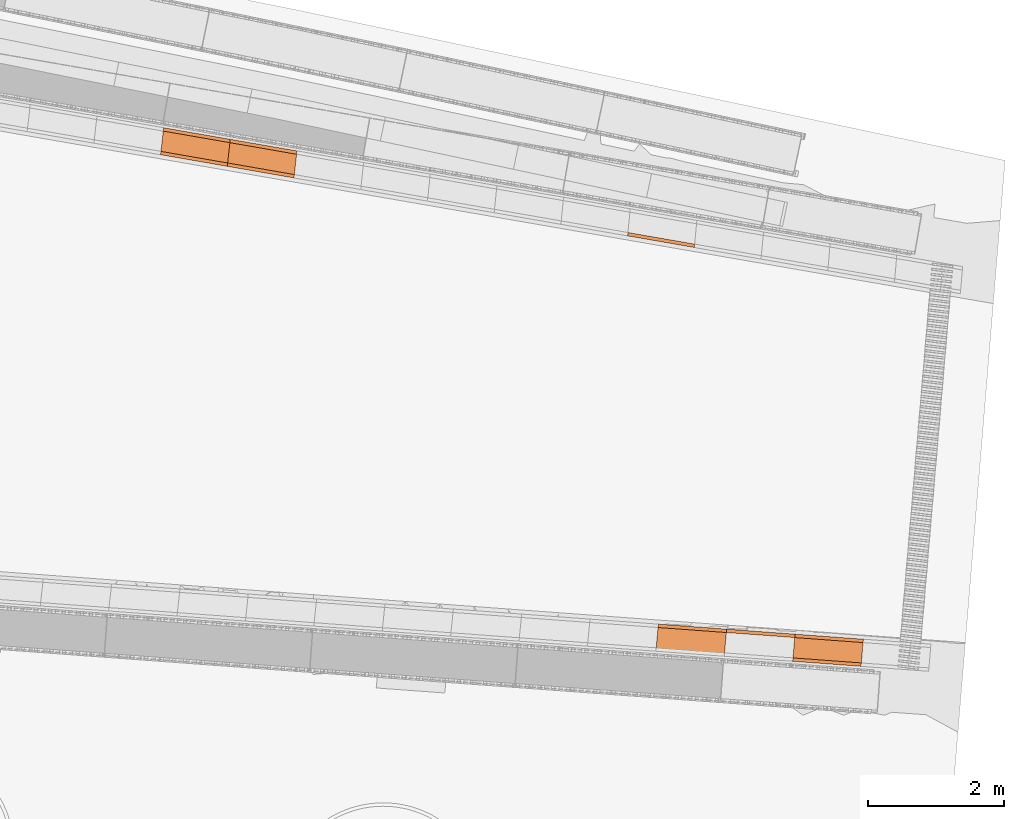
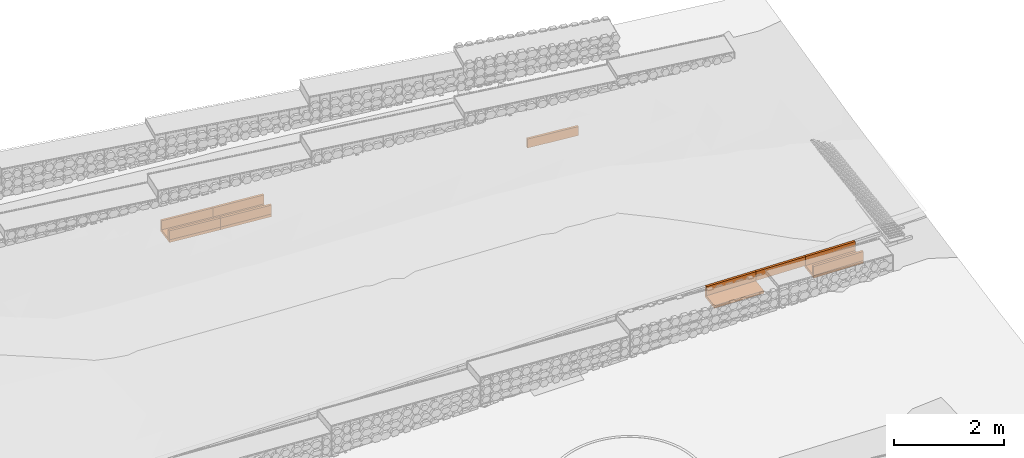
# Not in any storey, part 40 of 45: 13 proxies.
"""IFC4 model written with IfcOpenShell, lengths in metres."""

from ifc_helpers import new_model, si_unit, direction, frame, origin_with_axes, place, context, subcontext, project, spatial, polygons, material, element, save


model = new_model("IFC4")

# Units and contexts
model_context = context("Model", 3, precision=1e-05, world=origin_with_axes(), true_north=direction((0.0, 1.0)))
body_context = subcontext(model_context, "Body", "Model", "MODEL_VIEW")
ifc_project = project(units=[si_unit("VOLUMEUNIT", "CUBIC_METRE"), si_unit("LENGTHUNIT", "METRE"), si_unit("AREAUNIT", "SQUARE_METRE")], contexts=[model_context])

# Site
site_placement = place(None, origin_with_axes())
site = spatial("IfcSite", under=ifc_project, at=site_placement, Name="Lares · Rua das Mercês · artigo 4771")

# Proxies
ifc_material = material(Name="Caleiras · betão", Category="concrete")
proxy_1_placement = place(site_placement, frame((0.0, 0.0, 0.0), z_axis=(0.0, 0.0, 1.0), x_axis=(1.0, -1.03767253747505e-17, 0.0)))
element("IfcBuildingElementProxy", 1, at=proxy_1_placement, inside=site, material=ifc_material, Name="Acesso · canal lateral", ObjectType="Acesso · canal lateral", PredefinedType="USERDEFINED", context=body_context, shape_type="Tessellation", body=[
    polygons([(78.7315744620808, 0.381832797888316, 15.7690898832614), (78.7690199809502, 0.780076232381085, 15.7690898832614), (79.774022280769, 0.706180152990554, 15.7986969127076), (79.7365767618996, 0.307936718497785, 15.7986969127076), (78.7315744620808, 0.381832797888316, 15.8290898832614), (78.7690199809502, 0.780076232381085, 15.8290898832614), (79.774022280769, 0.706180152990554, 15.8586969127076), (79.7365767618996, 0.307936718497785, 15.8586969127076)], [[[4, 3, 2, 1]], [[5, 6, 7, 8]], [[1, 2, 6, 5]], [[2, 3, 7, 6]], [[3, 4, 8, 7]], [[4, 1, 5, 8]]]),
])
proxy_2_placement = place(site_placement, frame((0.0, 0.0, 0.0), z_axis=(0.0, 0.0, 1.0), x_axis=(1.0, -1.03767253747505e-17, 0.0)))
element("IfcBuildingElementProxy", 2, at=proxy_2_placement, inside=site, material=ifc_material, Name="Acesso · canal lateral", ObjectType="Acesso · canal lateral", PredefinedType="USERDEFINED", context=body_context, shape_type="Tessellation", body=[
    polygons([(78.7643392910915, 0.730295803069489, 15.8290898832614), (78.7690199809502, 0.780076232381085, 15.8290898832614), (79.774022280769, 0.706180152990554, 15.8586969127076), (79.7693415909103, 0.656399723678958, 15.8586969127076), (78.7643392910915, 0.730295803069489, 16.0290898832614), (78.7690199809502, 0.780076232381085, 16.0290898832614), (79.774022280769, 0.706180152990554, 16.0586969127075), (79.7693415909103, 0.656399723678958, 16.0586969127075)], [[[4, 3, 2, 1]], [[5, 6, 7, 8]], [[1, 2, 6, 5]], [[2, 3, 7, 6]], [[3, 4, 8, 7]], [[4, 1, 5, 8]]]),
])
proxy_3_placement = place(site_placement, frame((0.0, 0.0, 0.0), z_axis=(0.0, 0.0, 1.0), x_axis=(1.0, -1.03767253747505e-17, 0.0)))
element("IfcBuildingElementProxy", 3, at=proxy_3_placement, inside=site, material=ifc_material, Name="Acesso · canal lateral", ObjectType="Acesso · canal lateral", PredefinedType="USERDEFINED", context=body_context, shape_type="Tessellation", body=[
    polygons([(79.7689341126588, 0.656437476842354, 15.8586969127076), (79.7734789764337, 0.706230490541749, 15.8586969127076), (80.7785074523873, 0.632333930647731, 15.8883039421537), (80.7739625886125, 0.582540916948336, 15.8883039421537), (79.7689341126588, 0.656437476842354, 16.0586969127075), (79.7734789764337, 0.706230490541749, 16.0586969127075), (80.7785074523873, 0.632333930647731, 16.0883039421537), (80.7739625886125, 0.582540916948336, 16.0883039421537)], [[[4, 3, 2, 1]], [[5, 6, 7, 8]], [[1, 2, 6, 5]], [[2, 3, 7, 6]], [[3, 4, 8, 7]], [[4, 1, 5, 8]]]),
])
proxy_4_placement = place(site_placement, frame((0.0, 0.0, 0.0), z_axis=(0.0, 0.0, 1.0), x_axis=(1.0, -1.03767253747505e-17, 0.0)))
element("IfcBuildingElementProxy", 4, at=proxy_4_placement, inside=site, material=ifc_material, Name="Acesso · canal lateral", ObjectType="Acesso · canal lateral", PredefinedType="USERDEFINED", context=body_context, shape_type="Tessellation", body=[
    polygons([(80.742712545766, 0.23393914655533, 15.8283039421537), (80.7779434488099, 0.632384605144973, 15.8283039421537), (81.7829995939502, 0.558487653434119, 15.8586952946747), (81.7477686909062, 0.160042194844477, 15.8586952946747), (80.742712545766, 0.23393914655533, 15.8883039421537), (80.7779434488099, 0.632384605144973, 15.8883039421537), (81.7829995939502, 0.558487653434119, 15.9186952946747), (81.7477686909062, 0.160042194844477, 15.9186952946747)], [[[4, 3, 2, 1]], [[5, 6, 7, 8]], [[1, 2, 6, 5]], [[2, 3, 7, 6]], [[3, 4, 8, 7]], [[4, 1, 5, 8]]]),
])
proxy_5_placement = place(site_placement, frame((0.0, 0.0, 0.0), z_axis=(0.0, 0.0, 1.0), x_axis=(1.0, -1.03767253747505e-17, 0.0)))
element("IfcBuildingElementProxy", 5, at=proxy_5_placement, inside=site, material=ifc_material, Name="Acesso · canal lateral", ObjectType="Acesso · canal lateral", PredefinedType="USERDEFINED", context=body_context, shape_type="Tessellation", body=[
    polygons([(80.742712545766, 0.23393914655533, 15.8883039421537), (80.7471164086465, 0.283744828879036, 15.8883039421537), (81.7521725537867, 0.209847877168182, 15.9186952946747), (81.7477686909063, 0.160042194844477, 15.9186952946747), (80.742712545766, 0.23393914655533, 16.0883039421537), (80.7471164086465, 0.283744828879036, 16.0883039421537), (81.7521725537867, 0.209847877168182, 16.1186952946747), (81.7477686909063, 0.160042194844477, 16.1186952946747)], [[[4, 3, 2, 1]], [[5, 6, 7, 8]], [[1, 2, 6, 5]], [[2, 3, 7, 6]], [[3, 4, 8, 7]], [[4, 1, 5, 8]]]),
])
proxy_6_placement = place(site_placement, frame((0.0, 0.0, 0.0), z_axis=(0.0, 0.0, 1.0), x_axis=(1.0, -1.03767253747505e-17, 0.0)))
element("IfcBuildingElementProxy", 6, at=proxy_6_placement, inside=site, material=ifc_material, Name="Acesso · canal lateral", ObjectType="Acesso · canal lateral", PredefinedType="USERDEFINED", context=body_context, shape_type="Tessellation", body=[
    polygons([(80.7735395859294, 0.582578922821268, 15.8883039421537), (80.7779434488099, 0.632384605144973, 15.8883039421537), (81.7829995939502, 0.558487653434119, 15.9186952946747), (81.7785957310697, 0.508681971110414, 15.9186952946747), (80.7735395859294, 0.582578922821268, 16.0883039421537), (80.7779434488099, 0.632384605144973, 16.0883039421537), (81.7829995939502, 0.558487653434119, 16.1186952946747), (81.7785957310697, 0.508681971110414, 16.1186952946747)], [[[4, 3, 2, 1]], [[5, 6, 7, 8]], [[1, 2, 6, 5]], [[2, 3, 7, 6]], [[3, 4, 8, 7]], [[4, 1, 5, 8]]]),
])
proxy_7_placement = place(site_placement, frame((0.0, 0.0, 0.0), z_axis=(0.0, 0.0, 1.0), x_axis=(1.0, -1.03767253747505e-17, 0.0)))
element("IfcBuildingElementProxy", 7, at=proxy_7_placement, inside=site, material=ifc_material, Name="Acesso · canal lateral", ObjectType="Acesso · canal lateral", PredefinedType="USERDEFINED", context=body_context, shape_type="Tessellation", body=[
    polygons([(71.4526928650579, 7.67865536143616, 15.360890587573), (71.4975774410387, 8.0761291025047, 15.360890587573), (72.47777736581, 7.90582020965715, 15.4061354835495), (72.4328927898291, 7.50834646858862, 15.4061354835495), (71.4526928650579, 7.67865536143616, 15.420890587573), (71.4975774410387, 8.0761291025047, 15.420890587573), (72.47777736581, 7.90582020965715, 15.4661354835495), (72.4328927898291, 7.50834646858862, 15.4661354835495)], [[[4, 3, 2, 1]], [[5, 6, 7, 8]], [[1, 2, 6, 5]], [[2, 3, 7, 6]], [[3, 4, 8, 7]], [[4, 1, 5, 8]]]),
])
proxy_8_placement = place(site_placement, frame((0.0, 0.0, 0.0), z_axis=(0.0, 0.0, 1.0), x_axis=(1.0, -1.03767253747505e-17, 0.0)))
element("IfcBuildingElementProxy", 8, at=proxy_8_placement, inside=site, material=ifc_material, Name="Acesso · canal lateral", ObjectType="Acesso · canal lateral", PredefinedType="USERDEFINED", context=body_context, shape_type="Tessellation", body=[
    polygons([(71.4526928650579, 7.67865536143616, 15.420890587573), (71.4583034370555, 7.72833957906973, 15.420890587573), (72.4385033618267, 7.55803068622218, 15.4661354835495), (72.4328927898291, 7.50834646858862, 15.4661354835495), (71.4526928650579, 7.67865536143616, 15.620890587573), (71.4583034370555, 7.72833957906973, 15.620890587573), (72.4385033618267, 7.55803068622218, 15.6661354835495), (72.4328927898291, 7.50834646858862, 15.6661354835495)], [[[4, 3, 2, 1]], [[5, 6, 7, 8]], [[1, 2, 6, 5]], [[2, 3, 7, 6]], [[3, 4, 8, 7]], [[4, 1, 5, 8]]]),
])
proxy_9_placement = place(site_placement, frame((0.0, 0.0, 0.0), z_axis=(0.0, 0.0, 1.0), x_axis=(1.0, -1.03767253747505e-17, 0.0)))
element("IfcBuildingElementProxy", 9, at=proxy_9_placement, inside=site, material=ifc_material, Name="Acesso · canal lateral", ObjectType="Acesso · canal lateral", PredefinedType="USERDEFINED", context=body_context, shape_type="Tessellation", body=[
    polygons([(71.4919668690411, 8.02644488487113, 15.420890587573), (71.4975774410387, 8.0761291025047, 15.420890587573), (72.47777736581, 7.90582020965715, 15.4661354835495), (72.4721667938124, 7.85613599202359, 15.4661354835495), (71.4919668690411, 8.02644488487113, 15.620890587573), (71.4975774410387, 8.0761291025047, 15.620890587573), (72.47777736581, 7.90582020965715, 15.6661354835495), (72.4721667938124, 7.85613599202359, 15.6661354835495)], [[[4, 3, 2, 1]], [[5, 6, 7, 8]], [[1, 2, 6, 5]], [[2, 3, 7, 6]], [[3, 4, 8, 7]], [[4, 1, 5, 8]]]),
])
proxy_10_placement = place(site_placement, frame((0.0, 0.0, 0.0), z_axis=(0.0, 0.0, 1.0), x_axis=(1.0, -1.03767253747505e-17, 0.0)))
element("IfcBuildingElementProxy", 10, at=proxy_10_placement, inside=site, material=ifc_material, Name="Acesso · canal lateral", ObjectType="Acesso · canal lateral", PredefinedType="USERDEFINED", context=body_context, shape_type="Tessellation", body=[
    polygons([(72.4333046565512, 7.50830039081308, 15.4061354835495), (72.477365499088, 7.90586628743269, 15.4061354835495), (73.4575480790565, 7.7355582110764, 15.4597425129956), (73.4134872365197, 7.3379923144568, 15.4597425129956), (72.4333046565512, 7.50830039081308, 15.4661354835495), (72.477365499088, 7.90586628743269, 15.4661354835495), (73.4575480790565, 7.7355582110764, 15.5197425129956), (73.4134872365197, 7.3379923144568, 15.5197425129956)], [[[4, 3, 2, 1]], [[5, 6, 7, 8]], [[1, 2, 6, 5]], [[2, 3, 7, 6]], [[3, 4, 8, 7]], [[4, 1, 5, 8]]]),
])
proxy_11_placement = place(site_placement, frame((0.0, 0.0, 0.0), z_axis=(0.0, 0.0, 1.0), x_axis=(1.0, -1.03767253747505e-17, 0.0)))
element("IfcBuildingElementProxy", 11, at=proxy_11_placement, inside=site, material=ifc_material, Name="Acesso · canal lateral", ObjectType="Acesso · canal lateral", PredefinedType="USERDEFINED", context=body_context, shape_type="Tessellation", body=[
    polygons([(72.4333046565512, 7.50830039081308, 15.4661354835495), (72.4388122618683, 7.55799612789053, 15.4661354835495), (73.4189948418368, 7.38768805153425, 15.5197425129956), (73.4134872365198, 7.3379923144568, 15.5197425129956), (72.4333046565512, 7.50830039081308, 15.6661354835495), (72.4388122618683, 7.55799612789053, 15.6661354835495), (73.4189948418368, 7.38768805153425, 15.7197425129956), (73.4134872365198, 7.3379923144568, 15.7197425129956)], [[[4, 3, 2, 1]], [[5, 6, 7, 8]], [[1, 2, 6, 5]], [[2, 3, 7, 6]], [[3, 4, 8, 7]], [[4, 1, 5, 8]]]),
])
proxy_12_placement = place(site_placement, frame((0.0, 0.0, 0.0), z_axis=(0.0, 0.0, 1.0), x_axis=(1.0, -1.03767253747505e-17, 0.0)))
element("IfcBuildingElementProxy", 12, at=proxy_12_placement, inside=site, material=ifc_material, Name="Acesso · canal lateral", ObjectType="Acesso · canal lateral", PredefinedType="USERDEFINED", context=body_context, shape_type="Tessellation", body=[
    polygons([(72.4718578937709, 7.85617055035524, 15.4661354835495), (72.477365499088, 7.90586628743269, 15.4661354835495), (73.4575480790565, 7.7355582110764, 15.5197425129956), (73.4520404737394, 7.68586247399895, 15.5197425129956), (72.4718578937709, 7.85617055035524, 15.6661354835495), (72.477365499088, 7.90586628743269, 15.6661354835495), (73.4575480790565, 7.7355582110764, 15.7197425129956), (73.4520404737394, 7.68586247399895, 15.7197425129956)], [[[4, 3, 2, 1]], [[5, 6, 7, 8]], [[1, 2, 6, 5]], [[2, 3, 7, 6]], [[3, 4, 8, 7]], [[4, 1, 5, 8]]]),
])
proxy_13_placement = place(site_placement, frame((0.0, 0.0, 0.0), z_axis=(0.0, 0.0, 1.0), x_axis=(1.0, -1.03767253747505e-17, 0.0)))
element("IfcBuildingElementProxy", 13, at=proxy_13_placement, inside=site, material=ifc_material, Name="Acesso · canal lateral", ObjectType="Acesso · canal lateral", PredefinedType="USERDEFINED", context=body_context, shape_type="Tessellation", body=[
    polygons([(78.3168915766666, 6.48617454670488, 15.7877776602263), (78.3217031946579, 6.53594249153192, 15.7877776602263), (79.3017613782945, 6.36563874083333, 15.8290898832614), (79.2969497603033, 6.3158707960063, 15.8290898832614), (78.3168915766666, 6.48617454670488, 15.9877776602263), (78.3217031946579, 6.53594249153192, 15.9877776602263), (79.3017613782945, 6.36563874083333, 16.0290898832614), (79.2969497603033, 6.3158707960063, 16.0290898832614)], [[[4, 3, 2, 1]], [[5, 6, 7, 8]], [[1, 2, 6, 5]], [[2, 3, 7, 6]], [[3, 4, 8, 7]], [[4, 1, 5, 8]]]),
])

save(model, "model.ifc")
